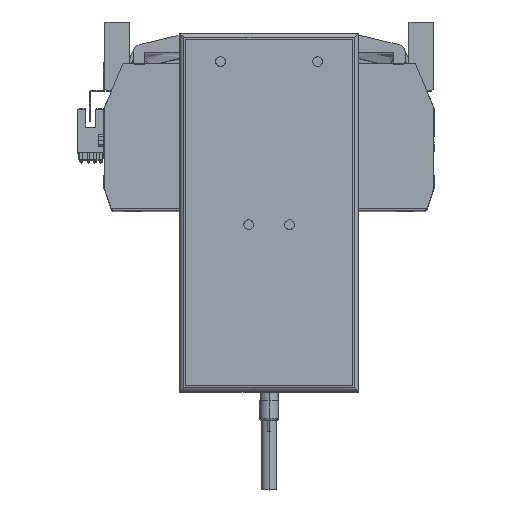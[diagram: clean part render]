
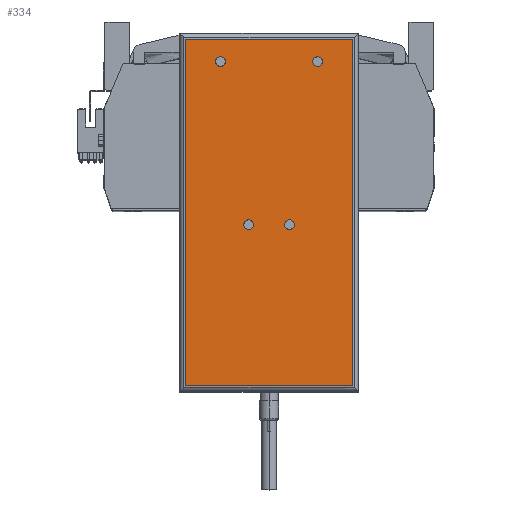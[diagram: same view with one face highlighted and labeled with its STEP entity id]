
A CAD part, top view. The second image highlights one B-rep face of the part: STEP entity #334.
In plain terms, the highlighted planar face has unit normal (0, 0, 1) as drawn and (0, 0, -1) by its records, which use the part's own axes.
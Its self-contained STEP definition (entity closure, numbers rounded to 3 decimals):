
#51 = AXIS2_PLACEMENT_3D ( 'NONE', #27558, #8632, #42831 ) ;
#334 = ADVANCED_FACE ( 'NONE', ( #13696, #39465, #23867, #25084, #3502 ), #47148, .F. ) ;
#1126 = DIRECTION ( 'NONE',  ( -1., 0., 0. ) ) ;
#1310 = DIRECTION ( 'NONE',  ( -1., 0., 0. ) ) ;
#1926 = EDGE_CURVE ( 'NONE', #42184, #35248, #6754, .T. ) ;
#2256 = AXIS2_PLACEMENT_3D ( 'NONE', #32157, #31816, #1310 ) ;
#2314 = VECTOR ( 'NONE', #29645, 1000. ) ;
#2611 = EDGE_CURVE ( 'NONE', #32860, #43832, #40311, .T. ) ;
#2701 = DIRECTION ( 'NONE',  ( -1., 0., 0. ) ) ;
#2732 = AXIS2_PLACEMENT_3D ( 'NONE', #7410, #18912, #38221 ) ;
#3215 = DIRECTION ( 'NONE',  ( 0., -1., 0. ) ) ;
#3419 = ORIENTED_EDGE ( 'NONE', *, *, #25353, .T. ) ;
#3502 = FACE_BOUND ( 'NONE', #46756, .T. ) ;
#3787 = CARTESIAN_POINT ( 'NONE',  ( -13., -6.25, 0. ) ) ;
#4847 = EDGE_CURVE ( 'NONE', #39687, #47225, #6561, .T. ) ;
#6561 = CIRCLE ( 'NONE', #22695, 2.5 ) ;
#6649 = EDGE_CURVE ( 'NONE', #32216, #10848, #14759, .T. ) ;
#6698 = CARTESIAN_POINT ( 'NONE',  ( -43., 89.25, 0. ) ) ;
#6754 = CIRCLE ( 'NONE', #22623, 2.5 ) ;
#6809 = AXIS2_PLACEMENT_3D ( 'NONE', #23899, #8827, #1126 ) ;
#6958 = CARTESIAN_POINT ( 'NONE',  ( 27.5, 77.75, 0. ) ) ;
#7410 = CARTESIAN_POINT ( 'NONE',  ( -25., 77.75, 0. ) ) ;
#8109 = CARTESIAN_POINT ( 'NONE',  ( 8., -6.25, 0. ) ) ;
#8486 = AXIS2_PLACEMENT_3D ( 'NONE', #19785, #19625, #46638 ) ;
#8632 = DIRECTION ( 'NONE',  ( 0., 0., 1. ) ) ;
#8827 = DIRECTION ( 'NONE',  ( 0., 0., -1. ) ) ;
#9208 = ORIENTED_EDGE ( 'NONE', *, *, #14583, .F. ) ;
#9230 = LINE ( 'NONE', #25979, #18178 ) ;
#10549 = CIRCLE ( 'NONE', #8486, 2.5 ) ;
#10562 = CARTESIAN_POINT ( 'NONE',  ( 25., 77.75, 0. ) ) ;
#10848 = VERTEX_POINT ( 'NONE', #8109 ) ;
#11215 = VERTEX_POINT ( 'NONE', #15743 ) ;
#11572 = LINE ( 'NONE', #27103, #48761 ) ;
#11971 = ORIENTED_EDGE ( 'NONE', *, *, #16097, .F. ) ;
#12198 = ORIENTED_EDGE ( 'NONE', *, *, #35258, .T. ) ;
#12815 = CARTESIAN_POINT ( 'NONE',  ( -22.5, 77.75, 0. ) ) ;
#13696 = FACE_OUTER_BOUND ( 'NONE', #25686, .T. ) ;
#13935 = CIRCLE ( 'NONE', #41582, 2.5 ) ;
#14224 = CARTESIAN_POINT ( 'NONE',  ( -8., -6.25, 0. ) ) ;
#14314 = ORIENTED_EDGE ( 'NONE', *, *, #37381, .F. ) ;
#14583 = EDGE_CURVE ( 'NONE', #35248, #42184, #47867, .T. ) ;
#14736 = CARTESIAN_POINT ( 'NONE',  ( 25., 77.75, 0. ) ) ;
#14759 = CIRCLE ( 'NONE', #2256, 2.5 ) ;
#14824 = CARTESIAN_POINT ( 'NONE',  ( -10.5, -6.25, 0. ) ) ;
#15074 = CARTESIAN_POINT ( 'NONE',  ( -43., -89.25, 0. ) ) ;
#15260 = CIRCLE ( 'NONE', #6809, 2.5 ) ;
#15743 = CARTESIAN_POINT ( 'NONE',  ( 43., -89.25, 0. ) ) ;
#16006 = CARTESIAN_POINT ( 'NONE',  ( -10.5, -6.25, 0. ) ) ;
#16097 = EDGE_CURVE ( 'NONE', #22284, #24793, #10549, .T. ) ;
#18178 = VECTOR ( 'NONE', #3215, 1000. ) ;
#18223 = DIRECTION ( 'NONE',  ( 0., 0., -1. ) ) ;
#18544 = DIRECTION ( 'NONE',  ( 0., 0., -1. ) ) ;
#18912 = DIRECTION ( 'NONE',  ( 0., 0., -1. ) ) ;
#19625 = DIRECTION ( 'NONE',  ( 0., 0., -1. ) ) ;
#19785 = CARTESIAN_POINT ( 'NONE',  ( -25., 77.75, 0. ) ) ;
#20110 = ORIENTED_EDGE ( 'NONE', *, *, #4847, .F. ) ;
#20174 = DIRECTION ( 'NONE',  ( 0., 0., -1. ) ) ;
#20517 = CARTESIAN_POINT ( 'NONE',  ( 13., -6.25, 0. ) ) ;
#20574 = ORIENTED_EDGE ( 'NONE', *, *, #6649, .F. ) ;
#21463 = LINE ( 'NONE', #29813, #2314 ) ;
#22284 = VERTEX_POINT ( 'NONE', #46956 ) ;
#22623 = AXIS2_PLACEMENT_3D ( 'NONE', #16006, #20174, #31447 ) ;
#22695 = AXIS2_PLACEMENT_3D ( 'NONE', #10562, #18223, #2701 ) ;
#23867 = FACE_BOUND ( 'NONE', #47129, .T. ) ;
#23899 = CARTESIAN_POINT ( 'NONE',  ( 10.5, -6.25, 0. ) ) ;
#24405 = ORIENTED_EDGE ( 'NONE', *, *, #32172, .F. ) ;
#24793 = VERTEX_POINT ( 'NONE', #12815 ) ;
#25084 = FACE_BOUND ( 'NONE', #43441, .T. ) ;
#25353 = EDGE_CURVE ( 'NONE', #47782, #32860, #11572, .T. ) ;
#25686 = EDGE_LOOP ( 'NONE', ( #35184, #12198, #3419, #40582 ) ) ;
#25818 = EDGE_CURVE ( 'NONE', #47225, #39687, #13935, .T. ) ;
#25979 = CARTESIAN_POINT ( 'NONE',  ( 43., -92.25, 0. ) ) ;
#27103 = CARTESIAN_POINT ( 'NONE',  ( -43., -92.25, 0. ) ) ;
#27558 = CARTESIAN_POINT ( 'NONE',  ( -46., -92.25, 0. ) ) ;
#28500 = AXIS2_PLACEMENT_3D ( 'NONE', #14824, #48888, #37624 ) ;
#29645 = DIRECTION ( 'NONE',  ( -1., 0., 0. ) ) ;
#29813 = CARTESIAN_POINT ( 'NONE',  ( -46., -89.25, 0. ) ) ;
#31447 = DIRECTION ( 'NONE',  ( -1., 0., 0. ) ) ;
#31816 = DIRECTION ( 'NONE',  ( 0., 0., -1. ) ) ;
#32157 = CARTESIAN_POINT ( 'NONE',  ( 10.5, -6.25, 0. ) ) ;
#32172 = EDGE_CURVE ( 'NONE', #10848, #32216, #15260, .T. ) ;
#32216 = VERTEX_POINT ( 'NONE', #20517 ) ;
#32381 = EDGE_CURVE ( 'NONE', #43832, #11215, #9230, .T. ) ;
#32860 = VERTEX_POINT ( 'NONE', #6698 ) ;
#34196 = DIRECTION ( 'NONE',  ( -1., 0., 0. ) ) ;
#34205 = CARTESIAN_POINT ( 'NONE',  ( 43., 89.25, 0. ) ) ;
#34837 = DIRECTION ( 'NONE',  ( 0., 1., 0. ) ) ;
#35182 = CIRCLE ( 'NONE', #2732, 2.5 ) ;
#35184 = ORIENTED_EDGE ( 'NONE', *, *, #32381, .T. ) ;
#35248 = VERTEX_POINT ( 'NONE', #14224 ) ;
#35258 = EDGE_CURVE ( 'NONE', #11215, #47782, #21463, .T. ) ;
#35785 = ORIENTED_EDGE ( 'NONE', *, *, #25818, .F. ) ;
#37381 = EDGE_CURVE ( 'NONE', #24793, #22284, #35182, .T. ) ;
#37624 = DIRECTION ( 'NONE',  ( -1., 0., 0. ) ) ;
#37752 = CARTESIAN_POINT ( 'NONE',  ( -46., 89.25, 0. ) ) ;
#38221 = DIRECTION ( 'NONE',  ( -1., 0., 0. ) ) ;
#39465 = FACE_BOUND ( 'NONE', #43533, .T. ) ;
#39687 = VERTEX_POINT ( 'NONE', #44221 ) ;
#40311 = LINE ( 'NONE', #37752, #49307 ) ;
#40582 = ORIENTED_EDGE ( 'NONE', *, *, #2611, .T. ) ;
#41582 = AXIS2_PLACEMENT_3D ( 'NONE', #14736, #18544, #34196 ) ;
#41616 = DIRECTION ( 'NONE',  ( 1., 0., 0. ) ) ;
#42184 = VERTEX_POINT ( 'NONE', #3787 ) ;
#42831 = DIRECTION ( 'NONE',  ( 1., 0., 0. ) ) ;
#43290 = ORIENTED_EDGE ( 'NONE', *, *, #1926, .F. ) ;
#43441 = EDGE_LOOP ( 'NONE', ( #11971, #14314 ) ) ;
#43533 = EDGE_LOOP ( 'NONE', ( #43290, #9208 ) ) ;
#43832 = VERTEX_POINT ( 'NONE', #34205 ) ;
#44221 = CARTESIAN_POINT ( 'NONE',  ( 22.5, 77.75, 0. ) ) ;
#46638 = DIRECTION ( 'NONE',  ( -1., 0., 0. ) ) ;
#46756 = EDGE_LOOP ( 'NONE', ( #20110, #35785 ) ) ;
#46956 = CARTESIAN_POINT ( 'NONE',  ( -27.5, 77.75, 0. ) ) ;
#47129 = EDGE_LOOP ( 'NONE', ( #24405, #20574 ) ) ;
#47148 = PLANE ( 'NONE',  #51 ) ;
#47225 = VERTEX_POINT ( 'NONE', #6958 ) ;
#47782 = VERTEX_POINT ( 'NONE', #15074 ) ;
#47867 = CIRCLE ( 'NONE', #28500, 2.5 ) ;
#48761 = VECTOR ( 'NONE', #34837, 1000. ) ;
#48888 = DIRECTION ( 'NONE',  ( 0., 0., -1. ) ) ;
#49307 = VECTOR ( 'NONE', #41616, 1000. ) ;
